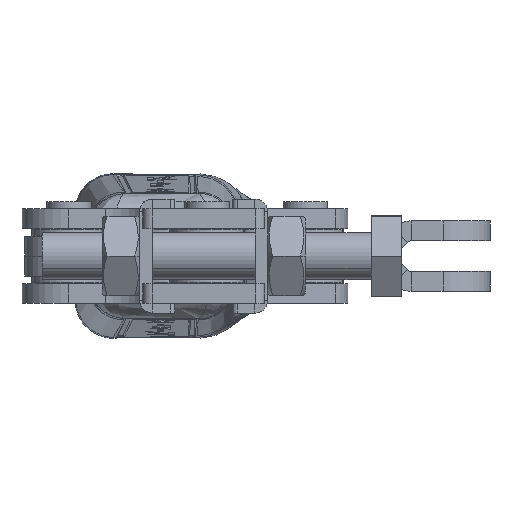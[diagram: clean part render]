
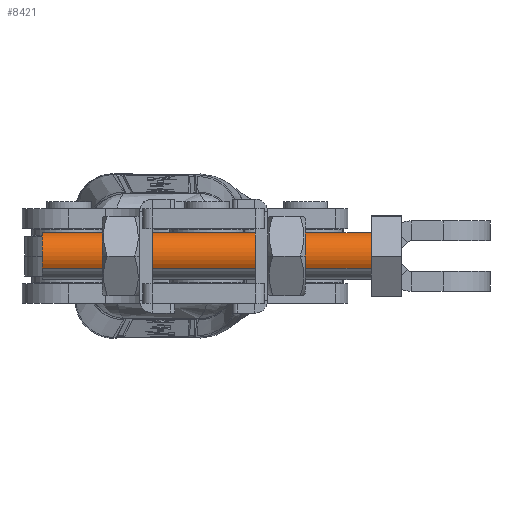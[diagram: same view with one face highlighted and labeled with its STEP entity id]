
A CAD part, left-side view. The second image highlights one B-rep face of the part: STEP entity #8421.
In plain terms, the highlighted cylindrical face has radius 5 mm (diameter 10 mm), a partial arc.
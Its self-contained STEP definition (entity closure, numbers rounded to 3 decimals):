
#208 = AXIS2_PLACEMENT_3D ( 'NONE', #23145, #12068, #884 ) ;
#884 = DIRECTION ( 'NONE',  ( 0., 0., 1. ) ) ;
#1201 = EDGE_CURVE ( 'NONE', #16347, #20650, #21053, .T. ) ;
#1520 = FACE_OUTER_BOUND ( 'NONE', #20274, .T. ) ;
#2606 = VECTOR ( 'NONE', #19539, 1000. ) ;
#2980 = VECTOR ( 'NONE', #18048, 1000. ) ;
#3270 = ORIENTED_EDGE ( 'NONE', *, *, #1201, .F. ) ;
#3348 = VERTEX_POINT ( 'NONE', #17818 ) ;
#4059 = DIRECTION ( 'NONE',  ( 0., 0., 1. ) ) ;
#4915 = AXIS2_PLACEMENT_3D ( 'NONE', #5951, #13344, #4059 ) ;
#5432 = CARTESIAN_POINT ( 'NONE',  ( 0., -70., -5. ) ) ;
#5891 = ORIENTED_EDGE ( 'NONE', *, *, #11202, .T. ) ;
#5951 = CARTESIAN_POINT ( 'NONE',  ( 0., -70., 0. ) ) ;
#6562 = CARTESIAN_POINT ( 'NONE',  ( 0., -70., 5. ) ) ;
#6869 = EDGE_CURVE ( 'NONE', #3348, #18617, #15856, .T. ) ;
#7606 = LINE ( 'NONE', #6562, #2606 ) ;
#8421 = ADVANCED_FACE ( 'NONE', ( #1520 ), #10871, .T. ) ;
#8719 = EDGE_CURVE ( 'NONE', #20650, #18617, #18417, .T. ) ;
#9122 = CARTESIAN_POINT ( 'NONE',  ( 0., -70., 5. ) ) ;
#9706 = DIRECTION ( 'NONE',  ( 0., 0., -1. ) ) ;
#9794 = DIRECTION ( 'NONE',  ( 0., -1., 0. ) ) ;
#10871 = CYLINDRICAL_SURFACE ( 'NONE', #4915, 5. ) ;
#11202 = EDGE_CURVE ( 'NONE', #16347, #3348, #7606, .T. ) ;
#11428 = ORIENTED_EDGE ( 'NONE', *, *, #6869, .T. ) ;
#12068 = DIRECTION ( 'NONE',  ( 0., -1., 0. ) ) ;
#12456 = CARTESIAN_POINT ( 'NONE',  ( 0., -70., 0. ) ) ;
#13344 = DIRECTION ( 'NONE',  ( 0., 1., 0. ) ) ;
#14839 = ORIENTED_EDGE ( 'NONE', *, *, #8719, .F. ) ;
#15361 = AXIS2_PLACEMENT_3D ( 'NONE', #12456, #9794, #9706 ) ;
#15856 = CIRCLE ( 'NONE', #208, 5. ) ;
#16347 = VERTEX_POINT ( 'NONE', #9122 ) ;
#17818 = CARTESIAN_POINT ( 'NONE',  ( 0., 0., 5. ) ) ;
#18048 = DIRECTION ( 'NONE',  ( 0., 1., 0. ) ) ;
#18417 = LINE ( 'NONE', #21732, #2980 ) ;
#18617 = VERTEX_POINT ( 'NONE', #19109 ) ;
#19109 = CARTESIAN_POINT ( 'NONE',  ( 0., 0., -5. ) ) ;
#19539 = DIRECTION ( 'NONE',  ( 0., 1., 0. ) ) ;
#20274 = EDGE_LOOP ( 'NONE', ( #14839, #3270, #5891, #11428 ) ) ;
#20650 = VERTEX_POINT ( 'NONE', #5432 ) ;
#21053 = CIRCLE ( 'NONE', #15361, 5. ) ;
#21732 = CARTESIAN_POINT ( 'NONE',  ( 0., -70., -5. ) ) ;
#23145 = CARTESIAN_POINT ( 'NONE',  ( 0., 0., 0. ) ) ;
